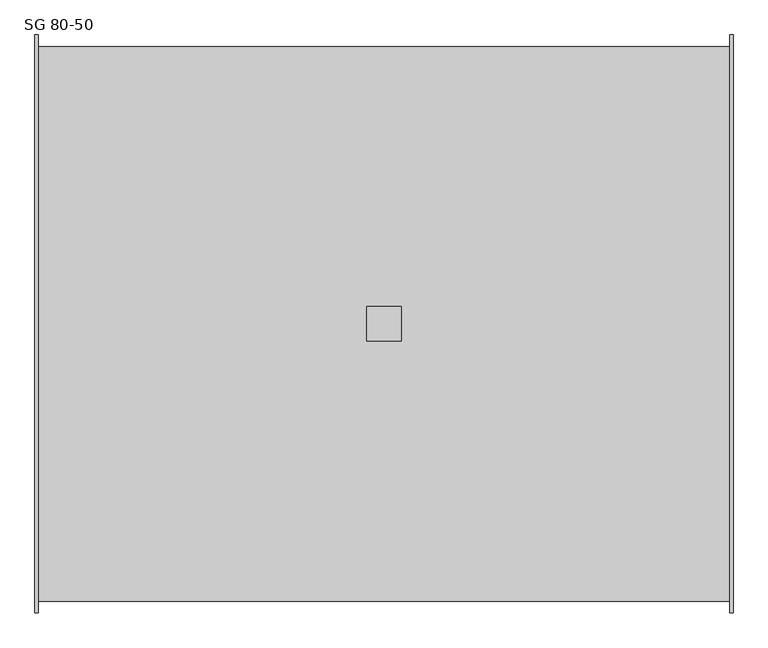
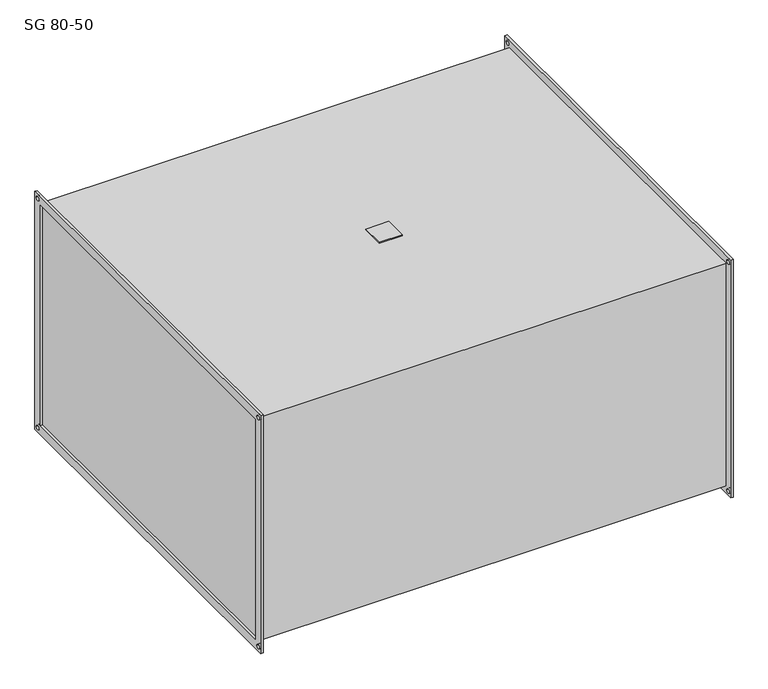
"""IFC4 building model written with IfcOpenShell, lengths in millimetres: damper geometry, KORF_Шумоглушитель_SG : SG 80-50."""

from ifc_helpers import new_model, si_unit, point, frame, frame_2d, origin, place, context, project, spatial, polyline, circle_curve, trimmed, segment, composite_curve, outline, extrude, source, transform, mapped, element, save


def sg_80_50_20a77c57(model_context):
    return source(origin(), model_context, "Body", "SweptSolid", [
        extrude(outline(polyline([(482.0, -25.0), (482.0, 25.0), (532.0, 25.0), (532.0, -25.0), (482.0, -25.0)])), frame((0.0, 0.0, 253.0), z_axis=(0.0, 0.0, 1.0), x_axis=(1.0, 0.0, 0.0)), (0.0, 0.0, 1.0), 2.0),
        extrude(outline(polyline([(-420.0, 270.0), (420.0, 270.0), (420.0, -270.0), (-420.0, -270.0), (-420.0, 270.0)]), holes=[polyline([(-400.0, 250.0), (-400.0, -250.0), (400.0, -250.0), (400.0, 250.0), (-400.0, 250.0)]), composite_curve([segment(trimmed(circle_curve(frame_2d((410.0, 260.0)), 4.5), [point((405.5, 260.0))], [point((414.5, 260.0))], True, "CARTESIAN"), True, "CONTINUOUS"), segment(trimmed(circle_curve(frame_2d((410.0, 260.0)), 4.5), [point((414.5, 260.0))], [point((405.5, 260.0))], True, "CARTESIAN"), True, "CONTINUOUS")], self_intersect=False), composite_curve([segment(trimmed(circle_curve(frame_2d((-410.0, 260.0)), 4.5), [point((-414.5, 260.0))], [point((-405.5, 260.0))], True, "CARTESIAN"), True, "CONTINUOUS"), segment(trimmed(circle_curve(frame_2d((-410.0, 260.0)), 4.5), [point((-405.5, 260.0))], [point((-414.5, 260.0))], True, "CARTESIAN"), True, "CONTINUOUS")], self_intersect=False), composite_curve([segment(trimmed(circle_curve(frame_2d((-410.0, -260.0)), 4.5), [point((-414.5, -260.0))], [point((-405.5, -260.0))], True, "CARTESIAN"), True, "CONTINUOUS"), segment(trimmed(circle_curve(frame_2d((-410.0, -260.0)), 4.5), [point((-405.5, -260.0))], [point((-414.5, -260.0))], True, "CARTESIAN"), True, "CONTINUOUS")], self_intersect=False), composite_curve([segment(trimmed(circle_curve(frame_2d((410.0, -260.0)), 4.5), [point((405.5, -260.0))], [point((414.5, -260.0))], True, "CARTESIAN"), True, "CONTINUOUS"), segment(trimmed(circle_curve(frame_2d((410.0, -260.0)), 4.5), [point((414.5, -260.0))], [point((405.5, -260.0))], True, "CARTESIAN"), True, "CONTINUOUS")], self_intersect=False)]), frame((1009.0, 0.0, 0.0), z_axis=(1.0, 0.0, 0.0), x_axis=(0.0, 1.0, 0.0)), (0.0, 0.0, 1.0), 5.0),
        extrude(outline(polyline([(-420.0, 270.0), (420.0, 270.0), (420.0, -270.0), (-420.0, -270.0), (-420.0, 270.0)]), holes=[polyline([(-400.0, 250.0), (-400.0, -250.0), (400.0, -250.0), (400.0, 250.0), (-400.0, 250.0)]), composite_curve([segment(trimmed(circle_curve(frame_2d((410.0, 260.0)), 4.5), [point((405.5, 260.0))], [point((414.5, 260.0))], True, "CARTESIAN"), True, "CONTINUOUS"), segment(trimmed(circle_curve(frame_2d((410.0, 260.0)), 4.5), [point((414.5, 260.0))], [point((405.5, 260.0))], True, "CARTESIAN"), True, "CONTINUOUS")], self_intersect=False), composite_curve([segment(trimmed(circle_curve(frame_2d((-410.0, 260.0)), 4.5), [point((-414.5, 260.0))], [point((-405.5, 260.0))], True, "CARTESIAN"), True, "CONTINUOUS"), segment(trimmed(circle_curve(frame_2d((-410.0, 260.0)), 4.5), [point((-405.5, 260.0))], [point((-414.5, 260.0))], True, "CARTESIAN"), True, "CONTINUOUS")], self_intersect=False), composite_curve([segment(trimmed(circle_curve(frame_2d((-410.0, -260.0)), 4.5), [point((-414.5, -260.0))], [point((-405.5, -260.0))], True, "CARTESIAN"), True, "CONTINUOUS"), segment(trimmed(circle_curve(frame_2d((-410.0, -260.0)), 4.5), [point((-405.5, -260.0))], [point((-414.5, -260.0))], True, "CARTESIAN"), True, "CONTINUOUS")], self_intersect=False), composite_curve([segment(trimmed(circle_curve(frame_2d((410.0, -260.0)), 4.5), [point((405.5, -260.0))], [point((414.5, -260.0))], True, "CARTESIAN"), True, "CONTINUOUS"), segment(trimmed(circle_curve(frame_2d((410.0, -260.0)), 4.5), [point((414.5, -260.0))], [point((405.5, -260.0))], True, "CARTESIAN"), True, "CONTINUOUS")], self_intersect=False)]), frame((0.0, 0.0, 0.0), z_axis=(1.0, 0.0, 0.0), x_axis=(0.0, 1.0, 0.0)), (0.0, 0.0, 1.0), 5.0),
        extrude(outline(polyline([(1009.0, 403.0), (1009.0, -403.0), (5.0, -403.0), (5.0, 403.0), (1009.0, 403.0)])), frame((0.0, 0.0, -253.0), z_axis=(0.0, 0.0, 1.0), x_axis=(1.0, 0.0, 0.0)), (0.0, 0.0, 1.0), 506.0),
    ])


if __name__ == "__main__":
    model = new_model("IFC4")
    model_context = context("Model", 3, world=origin())
    ifc_project = project(units=[si_unit("LENGTHUNIT", "METRE", prefix="MILLI")], contexts=[model_context])
    site = spatial("IfcSite", under=ifc_project)
    building = spatial("IfcBuilding", under=site)
    placement = place(None, origin())
    sg_80_50_shape = sg_80_50_20a77c57(model_context)
    element("IfcDamper", 1, ObjectType="KORF_Шумоглушитель_SG : SG 80-50", at=placement, inside=building, context=model_context, shape_type="MappedRepresentation", body=[
        mapped(sg_80_50_shape, transform((0.0, 0.0, 0.0), x_axis=(1.0, 0.0, 0.0), y_axis=(0.0, 1.0, 0.0), z_axis=(0.0, 0.0, 1.0))),
    ])
    save(model, "model.ifc")
